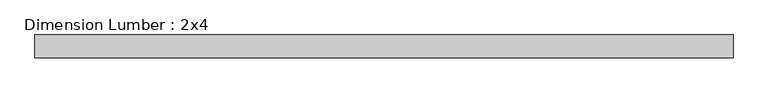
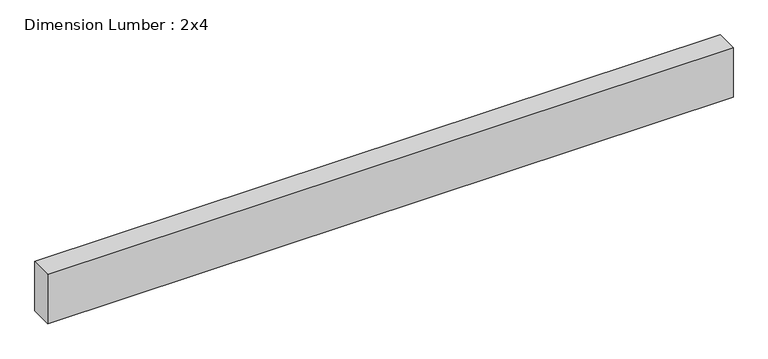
"""IFC4 building model written with IfcOpenShell, lengths in millimetres: beam geometry, Dimension Lumber : 2x4."""

from ifc_helpers import new_model, si_unit, frame, origin, place, context, project, spatial, polyline, outline, extrude, source, transform, mapped, element, save


def dimension_lumber_2x4_4dec2af7(model_context):
    return source(origin(), model_context, "Body", "SweptSolid", [
        extrude(outline(polyline([(582.7447917, 19.05), (582.7447917, -19.05), (-582.7447917, -19.05), (-582.7447917, 19.05), (582.7447917, 19.05)])), frame((0.0, 0.0, -44.45), z_axis=(0.0, 0.0, 1.0), x_axis=(1.0, 0.0, 0.0)), (0.0, 0.0, 1.0), 88.9),
    ])


if __name__ == "__main__":
    model = new_model("IFC4")
    model_context = context("Model", 3, world=origin())
    ifc_project = project(units=[si_unit("LENGTHUNIT", "METRE", prefix="MILLI")], contexts=[model_context])
    site = spatial("IfcSite", under=ifc_project)
    building = spatial("IfcBuilding", under=site)
    placement = place(None, origin())
    dimension_lumber_2x4_shape = dimension_lumber_2x4_4dec2af7(model_context)
    element("IfcBeam", 1, ObjectType="Dimension Lumber : 2x4", at=placement, inside=building, context=model_context, shape_type="MappedRepresentation", body=[
        mapped(dimension_lumber_2x4_shape, transform((0.0, 0.0, 0.0), x_axis=(1.0, 0.0, 0.0), y_axis=(0.0, 1.0, 0.0), z_axis=(0.0, 0.0, 1.0))),
    ])
    save(model, "model.ifc")
